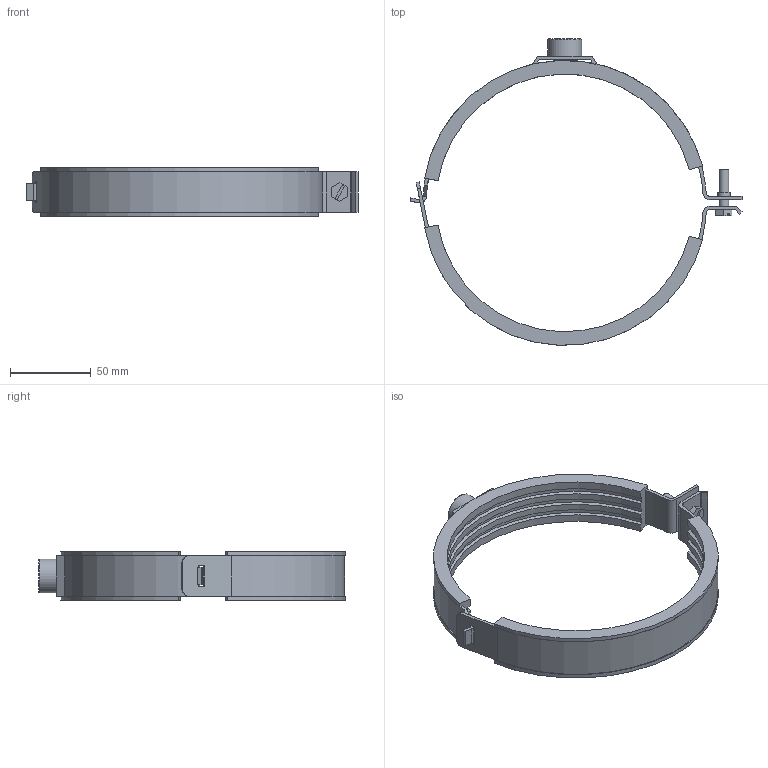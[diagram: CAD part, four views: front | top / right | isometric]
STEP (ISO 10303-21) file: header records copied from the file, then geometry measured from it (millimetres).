
FILE_DESCRIPTION(/* description */ (''),/* implementation_level */ '2;1');
FILE_NAME(/* name */ 'H:\Geberit-Teile\Export\Rohrschelle gedämmt ART\stp\315812.stp',/* time_stamp */ '2014-04-15T15:32:12+02:00',/* author */ ('seihe2'),/* organization */ (''),/* preprocessor_version */ 'ST-DEVELOPER v15.2',/* originating_system */ 'Autodesk Inventor 2014',/* authorisation */ '');
FILE_SCHEMA (('AUTOMOTIVE_DESIGN { 1 0 10303 214 3 1 1 }'));
Length unit declared in the file: millimetre
Products named in the file (1): 315812
Bounding box: 206.17 x 190.42 x 30 mm (x, y, z)
Volume: 111607.2 mm3; surface area: 51457.6 mm2
Topology: 1 solids, 1 shells, 132 faces, 355 edges, 230 vertices
Faces by surface type: plane 75, cylinder 43, cone 14
Full cylindrical faces by diameter (mm): 6 x2, 7.75 x1, 10 x1, 20.95 x1
Entity records: 4262 total; most frequent: DIRECTION 724, CARTESIAN_POINT 711, ORIENTED_EDGE 696, EDGE_CURVE 348, AXIS2_PLACEMENT_3D 243, LINE 238, VECTOR 238, VERTEX_POINT 230
